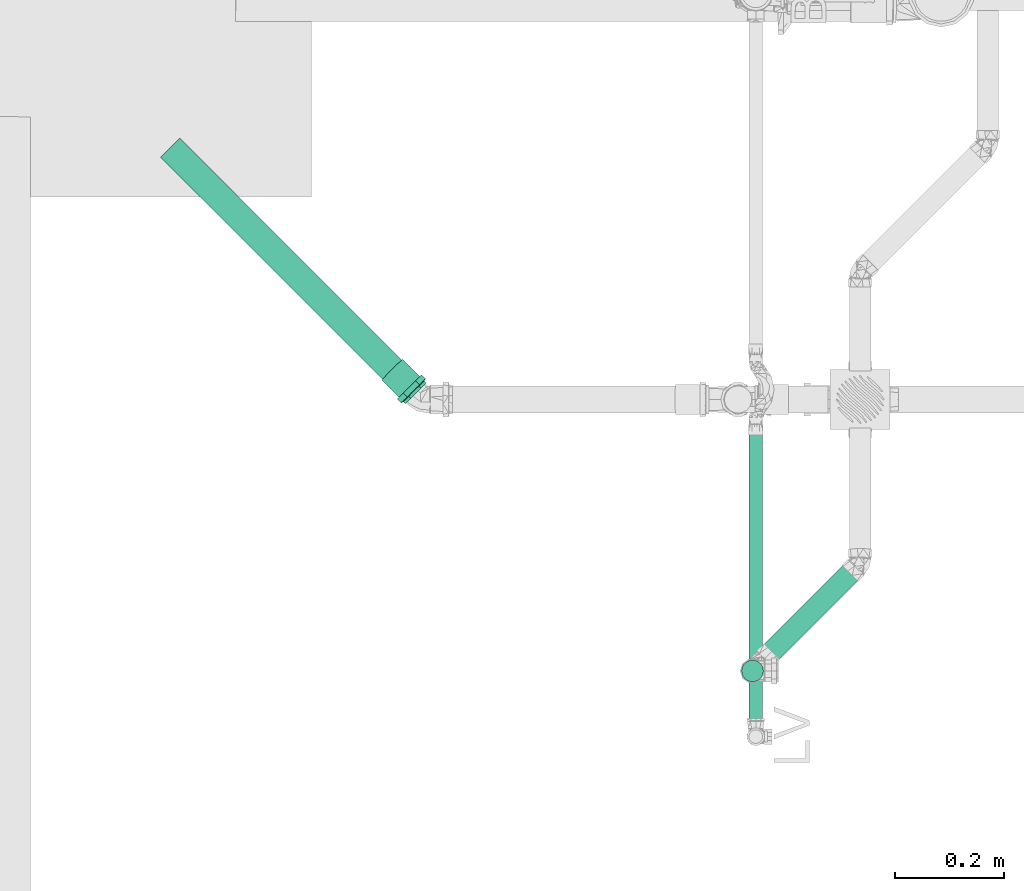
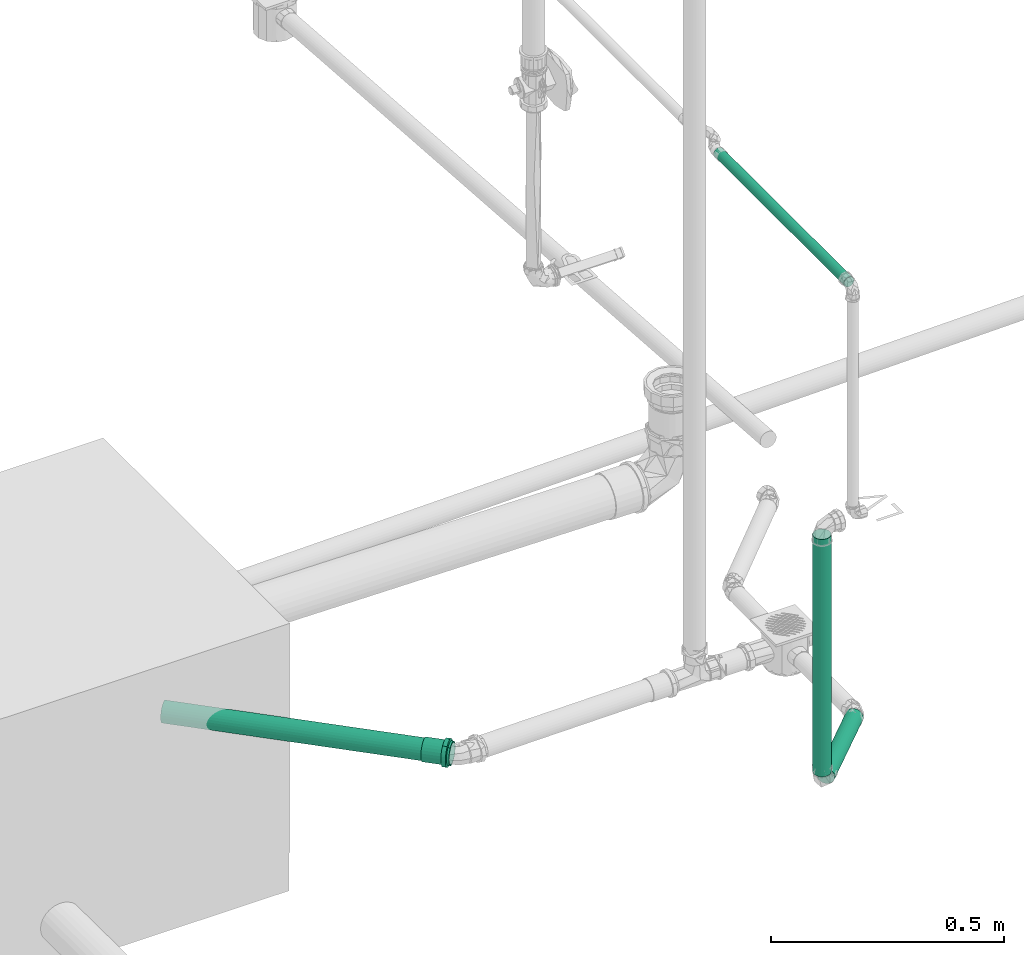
# One storey, part 76 of 589: 4 flow segments, 1 flow fitting.
"""IFC2X3 building model written with IfcOpenShell, lengths in millimetres."""

from ifc_helpers import new_model, entity, si_unit, converted_unit, derived_unit, direction, frame, frame_2d, origin, origin_2d_with_axis, place, context, subcontext, project, spatial, circle, extrude, faceted_brep, source, transform, mapped, material, type_object, type_shapes, element, save


model = new_model("IFC2X3")

# Units and contexts
model_context = context("Model", 3, precision=0.01, world=origin(), true_north=direction((6.123031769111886e-17, 1.0)))
body_context = subcontext(model_context, "Body", "Model", "MODEL_VIEW")
ifc_project = project(units=[si_unit("LENGTHUNIT", "METRE", prefix="MILLI"), si_unit("AREAUNIT", "SQUARE_METRE"), si_unit("VOLUMEUNIT", "CUBIC_METRE"), converted_unit("PLANEANGLEUNIT", "DEGREE", entity("IfcRatioMeasure", 0.017453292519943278), si_unit("PLANEANGLEUNIT", "RADIAN"), dimensions=[0, 0, 0, 0, 0, 0, 0]), si_unit("MASSUNIT", "GRAM", prefix="KILO"), derived_unit("MASSDENSITYUNIT", [(si_unit("MASSUNIT", "GRAM", prefix="KILO"), 1), (si_unit("LENGTHUNIT", "METRE"), -3)]), derived_unit("IONCONCENTRATIONUNIT", [(si_unit("MASSUNIT", "GRAM", prefix="KILO"), 1), (si_unit("LENGTHUNIT", "METRE"), -3)]), derived_unit("MOMENTOFINERTIAUNIT", [(si_unit("LENGTHUNIT", "METRE"), 4)]), si_unit("TIMEUNIT", "SECOND"), si_unit("FREQUENCYUNIT", "HERTZ"), si_unit("THERMODYNAMICTEMPERATUREUNIT", "DEGREE_CELSIUS"), derived_unit("THERMALTRANSMITTANCEUNIT", [(si_unit("MASSUNIT", "GRAM", prefix="KILO"), 1), (si_unit("THERMODYNAMICTEMPERATUREUNIT", "KELVIN"), -1), (si_unit("TIMEUNIT", "SECOND"), -3)]), derived_unit("THERMALCONDUCTANCEUNIT", [(si_unit("MASSUNIT", "GRAM", prefix="KILO"), 1), (si_unit("THERMODYNAMICTEMPERATUREUNIT", "KELVIN"), -1), (si_unit("TIMEUNIT", "SECOND"), -3), (si_unit("LENGTHUNIT", "METRE"), 1)]), derived_unit("VOLUMETRICFLOWRATEUNIT", [(si_unit("LENGTHUNIT", "METRE"), 3), (si_unit("TIMEUNIT", "SECOND"), -1)]), derived_unit("MASSFLOWRATEUNIT", [(si_unit("MASSUNIT", "GRAM", prefix="KILO"), 1), (si_unit("TIMEUNIT", "SECOND"), -1)]), derived_unit("ROTATIONALFREQUENCYUNIT", [(si_unit("TIMEUNIT", "SECOND"), -1)]), si_unit("ELECTRICCURRENTUNIT", "AMPERE"), si_unit("ELECTRICVOLTAGEUNIT", "VOLT"), si_unit("POWERUNIT", "WATT"), si_unit("FORCEUNIT", "NEWTON", prefix="KILO"), si_unit("ILLUMINANCEUNIT", "LUX"), si_unit("LUMINOUSFLUXUNIT", "LUMEN"), si_unit("LUMINOUSINTENSITYUNIT", "CANDELA"), derived_unit("USERDEFINED", [(si_unit("MASSUNIT", "GRAM", prefix="KILO"), -1), (si_unit("LENGTHUNIT", "METRE"), -2), (si_unit("TIMEUNIT", "SECOND"), 3), (si_unit("LUMINOUSFLUXUNIT", "LUMEN"), 1)]), derived_unit("USERDEFINED", [(si_unit("MASSUNIT", "GRAM", prefix="KILO"), 1), (si_unit("TIMEUNIT", "SECOND"), -3), (si_unit("LENGTHUNIT", "METRE"), 3), (si_unit("ELECTRICCURRENTUNIT", "AMPERE"), -2)]), derived_unit("SOUNDPOWERUNIT", [(si_unit("MASSUNIT", "GRAM", prefix="KILO"), 1), (si_unit("TIMEUNIT", "SECOND"), -3), (si_unit("LENGTHUNIT", "METRE"), 2)]), derived_unit("SOUNDPRESSUREUNIT", [(si_unit("MASSUNIT", "GRAM", prefix="KILO"), 1), (si_unit("LENGTHUNIT", "METRE"), -1), (si_unit("TIMEUNIT", "SECOND"), -2)]), derived_unit("LINEARVELOCITYUNIT", [(si_unit("LENGTHUNIT", "METRE"), 1), (si_unit("TIMEUNIT", "SECOND"), -1)]), si_unit("PRESSUREUNIT", "PASCAL"), derived_unit("USERDEFINED", [(si_unit("MASSUNIT", "GRAM", prefix="KILO"), 1), (si_unit("LENGTHUNIT", "METRE"), -2), (si_unit("TIMEUNIT", "SECOND"), -2)]), derived_unit("LINEARFORCEUNIT", [(si_unit("MASSUNIT", "GRAM", prefix="KILO"), 1), (si_unit("TIMEUNIT", "SECOND"), -2)]), derived_unit("PLANARFORCEUNIT", [(si_unit("MASSUNIT", "GRAM", prefix="KILO"), 1), (si_unit("LENGTHUNIT", "METRE"), -1), (si_unit("TIMEUNIT", "SECOND"), -2)]), derived_unit("SPECIFICHEATCAPACITYUNIT", [(si_unit("THERMODYNAMICTEMPERATUREUNIT", "KELVIN"), -1), (si_unit("LENGTHUNIT", "METRE"), 2), (si_unit("TIMEUNIT", "SECOND"), -2)]), derived_unit("HEATINGVALUEUNIT", [(si_unit("LENGTHUNIT", "METRE"), 2), (si_unit("TIMEUNIT", "SECOND"), -2)]), derived_unit("VAPORPERMEABILITYUNIT", [(si_unit("LENGTHUNIT", "METRE"), -1), (si_unit("TIMEUNIT", "SECOND"), 1)]), derived_unit("DYNAMICVISCOSITYUNIT", [(si_unit("MASSUNIT", "GRAM", prefix="KILO"), 1), (si_unit("TIMEUNIT", "SECOND"), -1), (si_unit("LENGTHUNIT", "METRE"), -1)]), derived_unit("THERMALEXPANSIONCOEFFICIENTUNIT", [(si_unit("THERMODYNAMICTEMPERATUREUNIT", "KELVIN"), -1)]), derived_unit("MODULUSOFELASTICITYUNIT", [(si_unit("MASSUNIT", "GRAM", prefix="KILO"), 1), (si_unit("LENGTHUNIT", "METRE"), -1), (si_unit("TIMEUNIT", "SECOND"), -2)]), derived_unit("ISOTHERMALMOISTURECAPACITYUNIT", [(si_unit("LENGTHUNIT", "METRE"), 3), (si_unit("MASSUNIT", "GRAM", prefix="KILO"), -1)]), derived_unit("MOISTUREDIFFUSIVITYUNIT", [(si_unit("TIMEUNIT", "SECOND"), -1), (si_unit("LENGTHUNIT", "METRE"), 2)])], contexts=[model_context])

# Site, building, storey
site_placement = place(None, origin())
site = spatial("IfcSite", under=ifc_project, at=site_placement, Name="Default", CompositionType="ELEMENT")
building_placement = place(site_placement, origin())
building = spatial("IfcBuilding", under=site, at=building_placement, CompositionType="ELEMENT")
storey_placement = place(building_placement, frame((0.0, 0.0, 100.0)))
storey = spatial("IfcBuildingStorey", under=building, at=storey_placement, Name="TÉRREO", CompositionType="ELEMENT", Elevation=100.0)

# Flow segments
pipe_segment_type_1 = type_object("IfcPipeSegmentType", Name="Tipos de tubos:PVC Esgoto Série Normal", PredefinedType="NOTDEFINED")
flow_segment_1_placement = place(storey_placement, origin())
element("IfcFlowSegment", 1, at=flow_segment_1_placement, inside=storey, type_object=pipe_segment_type_1, Name="Tipos de tubos:PVC Esgoto Série Normal", ObjectType="Tipos de tubos:PVC Esgoto Série Normal", context=body_context, shape_type="SweptSolid", body=[
    extrude(circle(Radius=25.0, at=frame_2d((7.657026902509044e-13, -9.262308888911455e-15), x_axis=(1.0, 0.0))), frame((-8188.7412625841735, -1264.318076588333, -188.45839924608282), z_axis=(-0.7070714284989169, 0.7070714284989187, -0.009999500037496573), x_axis=(0.7071067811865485, 0.7071067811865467, 0.0)), (0.0, 0.0, 1.0), 640.1316433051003),
])
flow_segment_2_placement = place(storey_placement, origin())
element("IfcFlowSegment", 2, at=flow_segment_2_placement, inside=storey, type_object=pipe_segment_type_1, Name="Tipos de tubos:PVC Esgoto Série Normal", ObjectType="Tipos de tubos:PVC Esgoto Série Normal", context=body_context, shape_type="SweptSolid", body=[
    extrude(circle(Radius=20.0, at=frame_2d((-7.656261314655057e-13, -3.222893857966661e-14), x_axis=(1.0, 0.0))), frame((-7378.514813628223, -1585.4834910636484, -180.35825735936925), z_axis=(-0.7070360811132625, -0.7068947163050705, 0.01999600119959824), x_axis=(0.707036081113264, -0.7071774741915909, 0.0)), (0.0, 0.0, 1.0), 236.74483919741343),
])
flow_segment_3_placement = place(storey_placement, origin())
element("IfcFlowSegment", 3, at=flow_segment_3_placement, inside=storey, type_object=pipe_segment_type_1, Name="Tipos de tubos:PVC Esgoto Série Normal", ObjectType="Tipos de tubos:PVC Esgoto Série Normal", context=body_context, shape_type="SweptSolid", body=[
    extrude(circle(Radius=20.0, at=origin_2d_with_axis()), frame((-7568.678588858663, -1775.6092449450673, -142.77492106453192)), (0.0, 0.0, 1.0), 620.9749210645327),
])
pipe_segment_type_2 = type_object("IfcPipeSegmentType", Name="Tipos de tubos:PVC Marrom Soldável", PredefinedType="NOTDEFINED")
flow_segment_4_placement = place(storey_placement, origin())
element("IfcFlowSegment", 4, at=flow_segment_4_placement, inside=storey, type_object=pipe_segment_type_2, Name="Tipos de tubos:PVC Marrom Soldável", ObjectType="Tipos de tubos:PVC Marrom Soldável", context=body_context, shape_type="SweptSolid", body=[
    extrude(circle(Radius=12.5, at=frame_2d((0.0, 1.0484109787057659e-27), x_axis=(1.0, 0.0))), frame((-7562.714972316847, -1881.2798231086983, 1200.0), z_axis=(0.0, 1.0, 0.0), x_axis=(1.0, 0.0, 0.0)), (0.0, 0.0, 1.0), 559.2278426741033),
])

# Flow fitting
ifc_material = material(Name="PVC Série Normal")
pipe_fitting_type = type_object("IfcPipeFittingType", Name="PVC Esgoto_Luva Simples para Conexão_Rodrigo MEP:Standard", PredefinedType="NOTDEFINED", material=ifc_material)
shared_shape = source(origin(), body_context, "Body", "Brep", [
    faceted_brep([(16.599999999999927, 15.900000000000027, -27.53960784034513), (16.599999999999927, 22.485995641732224, -22.485995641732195), (16.599999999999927, 13.599999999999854, -23.555890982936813), (16.599999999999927, 7.039878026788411, -26.273182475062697), (16.599999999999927, 8.2304456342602, -30.71644127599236), (16.599999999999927, 19.233304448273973, -19.233304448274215), (16.599999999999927, 27.539607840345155, -15.899999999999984), (16.599999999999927, 23.55589098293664, -13.600000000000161), (16.599999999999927, 26.273182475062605, -7.03987802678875), (16.599999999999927, 30.716441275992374, -8.230445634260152), (16.599999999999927, 27.2, 0.0), (16.599999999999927, 31.8, 0.0), (16.599999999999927, 26.273182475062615, 7.0398780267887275), (16.599999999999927, 30.71644127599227, 8.23044563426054), (16.599999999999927, 23.555890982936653, 13.60000000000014), (16.599999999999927, 27.539607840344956, 15.900000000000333), (16.599999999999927, 19.233304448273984, 19.2333044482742), (16.599999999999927, 22.485995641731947, 22.48599564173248), (16.599999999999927, 13.599999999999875, 23.555890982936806), (16.599999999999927, 15.899999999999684, 27.53960784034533), (16.599999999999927, 7.039878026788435, 26.27318247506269), (16.599999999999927, 8.230445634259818, 30.716441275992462), (16.599999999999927, 0.0, 27.2), (16.599999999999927, 0.0, 31.8), (16.599999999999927, -7.039878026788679, 26.273182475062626), (16.599999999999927, -8.230445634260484, 30.716441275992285), (16.599999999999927, -13.600000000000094, 23.555890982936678), (16.599999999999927, -15.900000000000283, 27.53960784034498), (16.599999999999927, -19.23330444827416, 19.233304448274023), (16.599999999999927, -22.485995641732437, 22.48599564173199), (16.599999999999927, -23.55589098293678, 13.59999999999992), (16.599999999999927, -27.539607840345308, 15.899999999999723), (16.599999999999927, -30.71644127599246, 8.230445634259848), (16.599999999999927, -26.273182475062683, 7.039878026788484), (16.599999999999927, -31.8, 0.0), (16.599999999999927, -27.2, 0.0), (16.599999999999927, -30.71644127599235, -8.23044563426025), (16.599999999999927, -26.273182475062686, -7.03987802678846), (16.599999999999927, -27.53960784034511, -15.90000000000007), (16.599999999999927, -23.55589098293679, -13.599999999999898), (16.599999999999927, -22.485995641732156, -22.485995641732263), (16.599999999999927, -19.233304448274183, -19.233304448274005), (16.599999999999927, -15.899999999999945, -27.53960784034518), (16.599999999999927, -13.600000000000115, -23.555890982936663), (16.599999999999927, -8.230445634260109, -30.716441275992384), (16.599999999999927, -7.039878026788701, -26.273182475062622), (16.599999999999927, 0.0, -31.8), (16.599999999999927, 0.0, -27.2), (6.500000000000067, -10.708108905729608, 29.429219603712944), (6.500000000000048, -24.359073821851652, 20.44200387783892), (6.500000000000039, -27.120498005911, 15.6595386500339), (6.50000000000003, -29.881922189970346, 10.877073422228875), (6.500000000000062, -15.89769721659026, 27.540937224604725), (6.500000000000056, -20.128385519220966, 23.991470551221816), (6.50000000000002, -30.840961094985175, 5.438536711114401), (6.5000000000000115, -31.8, 0.0), (6.50000000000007, -5.518520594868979, 31.317501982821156), (6.500000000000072, 5.526376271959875, 31.316116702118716), (6.50000000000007, 0.00392783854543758, 31.316809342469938), (6.500000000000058, 20.134403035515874, 23.986420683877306), (6.500000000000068, 10.715490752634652, 29.42653259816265), (6.500000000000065, 15.904605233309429, 27.536948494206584), (6.500000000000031, 29.8846497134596, 10.869577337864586), (6.500000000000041, 27.12442527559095, 15.652735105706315), (6.5000000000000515, 24.364200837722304, 20.435892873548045), (6.5000000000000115, 31.8, 0.0), (6.499999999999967, 24.364200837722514, -20.435892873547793), (6.499999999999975, 27.12442527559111, -15.652735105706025), (6.499999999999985, 29.884649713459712, -10.869577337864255), (6.4999999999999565, 15.904605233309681, -27.53694849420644), (6.499999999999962, 20.134403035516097, -23.986420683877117), (6.499999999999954, 10.715490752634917, -29.42653259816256), (6.499999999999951, 5.526376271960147, -31.31611670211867), (6.499999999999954, -5.518520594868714, -31.317501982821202), (6.499999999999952, 0.003927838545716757, -31.316809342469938), (6.499999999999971, -20.128385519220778, -23.99147055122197), (6.499999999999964, -15.897697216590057, -27.54093722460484), (6.499999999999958, -10.70810890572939, -29.42921960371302), (6.499999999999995, -29.881922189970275, -10.877073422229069), (6.499999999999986, -27.12049800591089, -15.659538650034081), (6.499999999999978, -24.359073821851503, -20.442003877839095), (6.500000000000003, -30.840961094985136, -5.438536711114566), (6.499999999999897, -30.696173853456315, -6.259599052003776), (62.0, 13.600000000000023, -23.55589098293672), (62.0, 19.233304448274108, -19.23330444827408), (62.0, 12.499999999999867, -21.650635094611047), (62.0, 6.470476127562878, -24.14814565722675), (62.0, 7.039878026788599, -26.273182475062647), (62.0, 17.677669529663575, -17.677669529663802), (62.0, 23.55589098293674, -13.599999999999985), (62.0, 21.65063509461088, -12.50000000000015), (62.0, 24.148145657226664, -6.470476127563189), (62.0, 26.27318247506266, -7.039878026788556), (62.0, 25.0, 0.0), (62.0, 27.2, 0.0), (62.0, 24.148145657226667, 6.4704761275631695), (62.0, 26.273182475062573, 7.03987802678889), (62.0, 21.650635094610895, 12.500000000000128), (62.0, 23.555890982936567, 13.600000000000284), (62.0, 17.67766952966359, 17.67766952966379), (62.0, 19.233304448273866, 19.233304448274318), (62.0, 12.499999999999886, 21.650635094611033), (62.0, 13.59999999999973, 23.55589098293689), (62.0, 6.4704761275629, 24.14814565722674), (62.0, 7.039878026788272, 26.273182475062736), (62.0, 0.0, 25.0), (62.0, 0.0, 27.2), (62.0, -6.470476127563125, 24.148145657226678), (62.0, -7.039878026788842, 26.273182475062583), (62.0, -12.500000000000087, 21.650635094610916), (62.0, -13.600000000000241, 23.555890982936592), (62.0, -17.677669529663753, 17.677669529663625), (62.0, -19.233304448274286, 19.2333044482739), (62.0, -21.65063509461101, 12.499999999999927), (62.0, -23.555890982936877, 13.599999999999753), (62.0, -26.27318247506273, 7.039878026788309), (62.0, -24.14814565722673, 6.470476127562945), (62.0, -27.2, 0.0), (62.0, -25.0, 0.0), (62.0, -26.27318247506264, -7.0398780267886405), (62.0, -24.148145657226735, -6.470476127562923), (62.0, -23.5558909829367, -13.600000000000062), (62.0, -21.650635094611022, -12.499999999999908), (62.0, -19.233304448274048, -19.233304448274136), (62.0, -17.67766952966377, -17.677669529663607), (62.0, -13.599999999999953, -23.555890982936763), (62.0, -12.500000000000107, -21.650635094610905), (62.0, -7.039878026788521, -26.27318247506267), (62.0, -6.470476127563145, -24.148145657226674), (62.0, 0.0, -27.2), (62.0, 0.0, -25.0), (0.0, 12.499999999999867, -21.650635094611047), (0.0, 19.233304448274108, -19.23330444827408), (0.0, 13.600000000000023, -23.55589098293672), (0.0, 6.470476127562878, -24.14814565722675), (0.0, 17.677669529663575, -17.677669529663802), (0.0, 23.55589098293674, -13.599999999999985), (0.0, 21.65063509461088, -12.50000000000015), (0.0, 24.148145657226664, -6.470476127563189), (0.0, 26.27318247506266, -7.039878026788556), (0.0, 25.0, 0.0), (0.0, 27.2, 0.0), (0.0, 24.148145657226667, 6.4704761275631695), (0.0, 26.273182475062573, 7.03987802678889), (0.0, 21.650635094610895, 12.500000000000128), (0.0, 23.555890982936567, 13.600000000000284), (0.0, 17.67766952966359, 17.67766952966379), (0.0, 19.233304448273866, 19.233304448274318), (0.0, 12.499999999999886, 21.650635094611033), (0.0, 13.59999999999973, 23.55589098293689), (0.0, 6.4704761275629, 24.14814565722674), (0.0, 7.039878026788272, 26.273182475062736), (0.0, 0.0, 25.0), (0.0, 0.0, 27.2), (0.0, -6.470476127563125, 24.148145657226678), (0.0, -7.039878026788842, 26.273182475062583), (0.0, -12.500000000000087, 21.650635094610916), (0.0, -13.600000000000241, 23.555890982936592), (0.0, -17.677669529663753, 17.677669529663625), (0.0, -19.233304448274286, 19.2333044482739), (0.0, -21.65063509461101, 12.499999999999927), (0.0, -23.555890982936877, 13.599999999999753), (0.0, -26.27318247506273, 7.039878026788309), (0.0, -24.14814565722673, 6.470476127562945), (0.0, -27.2, 0.0), (0.0, -25.0, 0.0), (0.0, -26.27318247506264, -7.0398780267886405), (0.0, -24.148145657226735, -6.470476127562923), (0.0, -23.5558909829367, -13.600000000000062), (0.0, -21.650635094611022, -12.499999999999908), (0.0, -19.233304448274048, -19.233304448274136), (0.0, -17.67766952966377, -17.677669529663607), (0.0, -13.599999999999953, -23.555890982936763), (0.0, -12.500000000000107, -21.650635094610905), (0.0, -7.039878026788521, -26.27318247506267), (0.0, -6.470476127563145, -24.148145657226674), (0.0, 0.0, -27.2), (0.0, 0.0, -25.0), (0.0, 7.039878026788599, -26.273182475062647), (5.300000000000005, -26.37968999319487, 4.651830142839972), (5.299999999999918, -26.25584678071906, 5.354122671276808), (5.300000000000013, -25.559379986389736, 9.303660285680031), (5.300000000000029, -20.835434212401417, 17.48498444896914), (5.300000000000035, -17.216732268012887, 20.521006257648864), (5.300000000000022, -23.19740709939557, 13.394322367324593), (5.3000000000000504, -4.720244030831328, 26.787297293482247), (5.300000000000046, -9.15913717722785, 25.172162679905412), (5.299999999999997, -27.2, 0.0), (5.300000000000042, -13.598030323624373, 23.557028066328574), (5.300000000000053, 9.165451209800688, 25.169864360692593), (5.300000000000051, 13.603939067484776, 23.55361632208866), (5.300000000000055, 4.7269633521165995, 26.786112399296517), (5.300000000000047, 17.221879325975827, 20.516686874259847), (5.300000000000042, 20.839819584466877, 17.479757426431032), (5.3000000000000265, 25.56171296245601, 9.297248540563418), (5.299999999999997, 27.2, 0.0), (5.3000000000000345, 23.20076627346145, 13.388502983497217), (5.300000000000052, 0.003359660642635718, 26.786704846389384), (5.299999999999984, 25.56171296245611, -9.29724854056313), (5.299999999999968, 20.839819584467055, -17.47975742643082), (5.2999999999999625, 17.22187932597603, -20.516686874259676), (5.299999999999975, 23.200766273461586, -13.388502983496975), (5.299999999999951, 4.726963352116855, -26.78611239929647), (5.2999999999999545, 9.165451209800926, -25.169864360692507), (5.299999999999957, 13.603939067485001, -23.553616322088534), (5.29999999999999, -26.379689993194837, -4.651830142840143), (5.299999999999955, -9.159137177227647, -25.17216267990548), (5.299999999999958, -13.5980303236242, -23.55702806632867), (5.299999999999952, -4.720244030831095, -26.787297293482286), (5.299999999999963, -17.216732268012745, -20.52100625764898), (5.299999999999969, -20.83543421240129, -17.484984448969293), (5.299999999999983, -25.559379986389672, -9.303660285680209), (5.299999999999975, -23.197407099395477, -13.394322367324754), (5.299999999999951, 0.003359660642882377, -26.78670484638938), (39.0, -25.0, 0.0), (39.0, 25.0, 0.0)], [[[0, 1, 2]], [[0, 2, 3]], [[3, 4, 0]], [[2, 1, 5]], [[6, 5, 1]], [[7, 5, 6]], [[8, 7, 6]], [[8, 6, 9]], [[8, 9, 10]], [[10, 9, 11]], [[12, 10, 11]], [[12, 11, 13]], [[14, 12, 13]], [[14, 13, 15]], [[16, 14, 15]], [[15, 17, 16]], [[17, 18, 16]], [[17, 19, 18]], [[18, 19, 20]], [[21, 20, 19]], [[20, 21, 22]], [[22, 21, 23]], [[22, 23, 24]], [[24, 23, 25]], [[24, 25, 26]], [[27, 26, 25]], [[27, 28, 26]], [[28, 27, 29]], [[30, 28, 29]], [[31, 30, 29]], [[32, 30, 31]], [[33, 30, 32]], [[33, 32, 34]], [[35, 33, 34]], [[36, 35, 34]], [[36, 37, 35]], [[37, 36, 38]], [[39, 37, 38]], [[39, 38, 40]], [[39, 40, 41]], [[40, 42, 41]], [[41, 42, 43]], [[43, 42, 44]], [[44, 45, 43]], [[46, 45, 44]], [[4, 47, 46]], [[46, 47, 45]], [[4, 3, 47]], [[48, 27, 25]], [[31, 29, 49]], [[31, 49, 50, 51]], [[52, 53, 27]], [[32, 51, 54]], [[54, 55, 34]], [[54, 34, 32]], [[25, 56, 48]], [[49, 29, 53]], [[23, 57, 58, 56]], [[59, 19, 17]], [[27, 53, 29]], [[48, 52, 27]], [[31, 51, 32]], [[57, 23, 21]], [[60, 19, 61]], [[15, 62, 63, 64]], [[19, 60, 21]], [[15, 13, 62]], [[17, 64, 59]], [[57, 21, 60]], [[23, 56, 25]], [[15, 64, 17]], [[13, 65, 62]], [[13, 11, 65]], [[59, 61, 19]], [[65, 11, 9]], [[6, 1, 66]], [[6, 66, 67, 68]], [[69, 70, 0]], [[68, 65, 9]], [[71, 69, 0]], [[71, 0, 4]], [[4, 72, 71]], [[66, 1, 70]], [[46, 73, 74, 72]], [[75, 76, 42]], [[0, 70, 1]], [[75, 42, 40]], [[6, 68, 9]], [[73, 46, 44]], [[77, 42, 76]], [[38, 78, 79, 80]], [[42, 77, 44]], [[38, 36, 78]], [[40, 80, 75]], [[73, 44, 77]], [[46, 72, 4]], [[38, 80, 40]], [[36, 81, 82, 78]], [[55, 81, 34]], [[34, 81, 36]], [[83, 84, 85]], [[83, 85, 86]], [[86, 87, 83]], [[85, 84, 88]], [[89, 88, 84]], [[88, 89, 90]], [[90, 89, 91]], [[92, 91, 89]], [[92, 93, 91]], [[93, 92, 94]], [[95, 93, 94]], [[94, 96, 95]], [[95, 96, 97]], [[98, 97, 96]], [[97, 98, 99]], [[99, 98, 100]], [[101, 99, 100]], [[100, 102, 101]], [[101, 102, 103]], [[104, 103, 102]], [[103, 104, 105]], [[105, 104, 106]], [[105, 106, 107]], [[107, 106, 108]], [[107, 108, 109]], [[110, 109, 108]], [[110, 111, 109]], [[111, 110, 112]], [[112, 113, 111]], [[114, 113, 112]], [[113, 114, 115]], [[115, 116, 113]], [[117, 116, 115]], [[117, 118, 116]], [[119, 118, 117]], [[119, 120, 118]], [[120, 119, 121]], [[121, 122, 120]], [[122, 121, 123]], [[122, 123, 124]], [[123, 125, 124]], [[124, 125, 126]], [[126, 125, 127]], [[127, 128, 126]], [[129, 128, 127]], [[87, 130, 129]], [[129, 130, 128]], [[87, 86, 130]], [[131, 132, 133]], [[134, 131, 133]], [[135, 132, 131]], [[132, 135, 136]], [[137, 136, 135]], [[138, 136, 137]], [[136, 138, 139]], [[138, 140, 139]], [[141, 139, 140]], [[141, 140, 142]], [[142, 143, 141]], [[144, 143, 142]], [[143, 144, 145]], [[146, 145, 144]], [[147, 145, 146]], [[147, 146, 148]], [[148, 149, 147]], [[150, 149, 148]], [[149, 150, 151]], [[152, 151, 150]], [[153, 151, 152]], [[154, 153, 152]], [[155, 153, 154]], [[156, 155, 154]], [[155, 156, 157]], [[156, 158, 157]], [[159, 157, 158]], [[158, 160, 159]], [[159, 160, 161]], [[162, 161, 160]], [[160, 163, 162]], [[162, 163, 164]], [[163, 165, 164]], [[164, 165, 166]], [[165, 167, 166]], [[168, 166, 167]], [[167, 169, 168]], [[170, 168, 169]], [[171, 170, 169]], [[171, 172, 170]], [[173, 172, 171]], [[174, 172, 173]], [[173, 175, 174]], [[174, 175, 176]], [[175, 177, 176]], [[177, 134, 178]], [[176, 177, 178]], [[133, 178, 134]], [[162, 179, 180, 181]], [[159, 182, 183]], [[182, 161, 181, 184]], [[185, 155, 186]], [[161, 162, 181]], [[187, 179, 164]], [[183, 188, 157]], [[183, 157, 159]], [[161, 182, 159]], [[189, 190, 149]], [[189, 149, 151]], [[157, 188, 186]], [[157, 186, 155]], [[153, 155, 185]], [[164, 179, 162]], [[151, 191, 189]], [[147, 192, 193]], [[143, 194, 195]], [[194, 145, 193, 196]], [[143, 195, 141]], [[10, 12, 96, 94]], [[149, 192, 147]], [[153, 185, 197, 191]], [[153, 191, 151]], [[145, 147, 193]], [[190, 192, 149]], [[145, 194, 143]], [[139, 195, 198]], [[132, 199, 200]], [[199, 136, 198, 201]], [[202, 178, 203]], [[136, 139, 198]], [[139, 141, 195]], [[92, 8, 10, 94]], [[133, 203, 178]], [[200, 204, 133]], [[136, 199, 132]], [[205, 164, 166]], [[206, 207, 172]], [[133, 204, 203]], [[206, 172, 174]], [[176, 178, 202]], [[200, 133, 132]], [[174, 208, 206]], [[170, 209, 210]], [[166, 211, 205]], [[211, 168, 210, 212]], [[168, 211, 166]], [[172, 209, 170]], [[176, 202, 213, 208]], [[176, 208, 174]], [[168, 170, 210]], [[207, 209, 172]], [[205, 187, 164]], [[116, 118, 214, 165, 163]], [[156, 109, 111, 158]], [[111, 113, 160, 158]], [[113, 116, 163, 160]], [[107, 109, 156, 154]], [[154, 152, 105, 107]], [[103, 105, 152, 150]], [[103, 150, 148, 101]], [[142, 95, 97, 144]], [[97, 99, 146, 144]], [[99, 101, 148, 146]], [[93, 95, 142, 140, 215]], [[215, 140, 138, 91, 93]], [[135, 131, 85, 88]], [[90, 91, 138, 137]], [[90, 137, 135, 88]], [[86, 85, 131, 134]], [[134, 177, 130, 86]], [[128, 130, 177, 175]], [[128, 175, 173, 126]], [[167, 120, 122, 169]], [[122, 124, 171, 169]], [[124, 126, 173, 171]], [[118, 120, 167, 165, 214]], [[211, 78, 82, 81, 55, 187, 205]], [[79, 78, 211, 212, 210, 80]], [[75, 80, 210, 209, 207, 76]], [[207, 206, 208, 73, 77, 76]], [[213, 202, 72, 74, 73, 208]], [[203, 204, 69, 71, 72, 202]], [[198, 195, 65, 68]], [[199, 201, 198, 68, 67, 66]], [[204, 200, 199, 66, 70, 69]], [[195, 194, 62, 65]], [[197, 185, 56, 58, 57, 191]], [[63, 62, 194, 196, 193, 64]], [[57, 60, 61, 190, 189, 191]], [[193, 192, 190, 61, 59, 64]], [[48, 56, 185, 186, 188, 52]], [[187, 55, 54, 51, 181, 180, 179]], [[182, 184, 181, 51, 50, 49]], [[188, 183, 182, 49, 53, 52]], [[30, 33, 115, 114]], [[117, 115, 33, 35]], [[26, 28, 112, 110]], [[114, 112, 28, 30]], [[24, 26, 110, 108]], [[108, 106, 22, 24]], [[18, 20, 104, 102]], [[100, 16, 18, 102]], [[12, 14, 98, 96]], [[100, 98, 14, 16]], [[104, 20, 22, 106]], [[89, 7, 8, 92]], [[83, 87, 3, 2]], [[7, 89, 84, 5]], [[83, 2, 5, 84]], [[87, 129, 47, 3]], [[43, 45, 127, 125]], [[123, 41, 43, 125]], [[37, 39, 121, 119]], [[123, 121, 39, 41]], [[35, 37, 119, 117]], [[127, 45, 47, 129]]]),
])
type_shapes(pipe_fitting_type, [shared_shape])
flow_fitting_placement = place(storey_placement, frame((-8188.741262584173, -1264.3180765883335, -188.45839924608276), z_axis=(-0.00999941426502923, 0.004141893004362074, 0.9999414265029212), x_axis=(-0.7070714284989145, 0.707071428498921, -0.009999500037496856)))
element("IfcFlowFitting", 5, at=flow_fitting_placement, inside=storey, type_object=pipe_fitting_type, material=ifc_material, Name="PVC Esgoto_Luva Simples para Conexão_Rodrigo MEP:Standard", ObjectType="PVC Esgoto_Luva Simples para Conexão_Rodrigo MEP:Standard", context=body_context, shape_type="MappedRepresentation", body=[
    mapped(shared_shape, transform((0.0, 0.0, 0.0), scale=1.0)),
])

save(model, "model.ifc")
